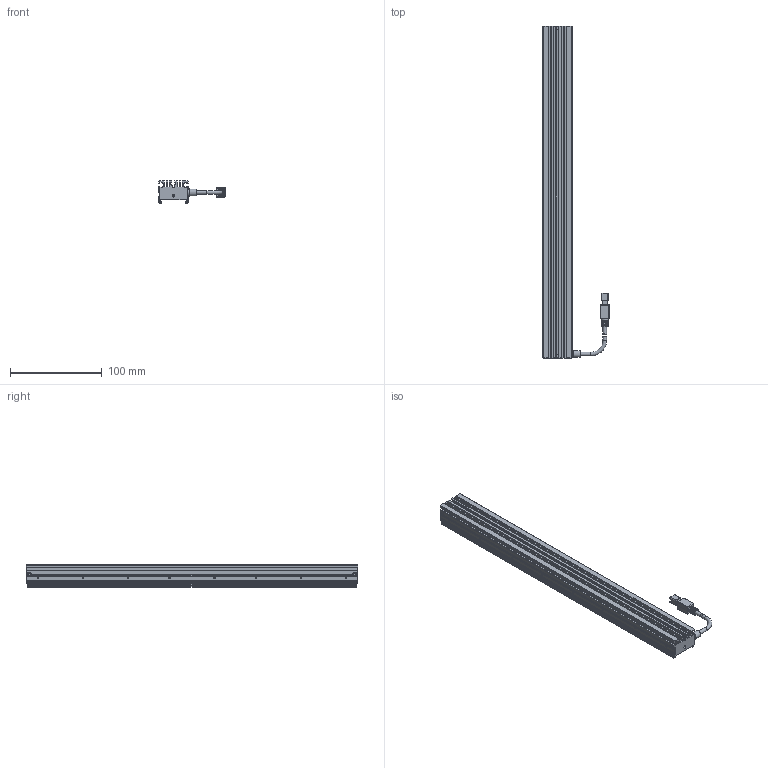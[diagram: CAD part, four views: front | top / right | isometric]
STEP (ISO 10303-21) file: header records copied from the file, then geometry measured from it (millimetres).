
FILE_DESCRIPTION (( 'STEP AP203' ), '1' );
FILE_NAME ('OPT-ILI36232-IR-V1.0尨砩芞.STEP', '2025-01-18T08:30:27', ( '' ), ( '' ), 'SwSTEP 2.0', 'SolidWorks 2016', '' );
FILE_SCHEMA (( 'CONFIG_CONTROL_DESIGN' ));
Length unit declared in the file: millimetre
Products named in the file (1): OPT-ILI36232-IR-V1.0尨砩芞
Bounding box: 72.6 x 362 x 24 mm (x, y, z)
Volume: 198746.9 mm3; surface area: 89028.2 mm2
Topology: 5 solids, 13 shells, 608 faces, 1565 edges, 1003 vertices
Faces by surface type: plane 408, cylinder 142, cone 28, bspline 20, torus 10
Full cylindrical faces by diameter (mm): 1.1 x2, 1.4 x2, 1.6 x23, 2 x7, 2.4 x7, 2.5 x2, 3 x2, 3.5 x1, 4.1 x3, 7.5 x2, 8 x1
Entity records: 18491 total; most frequent: CARTESIAN_POINT 4227, ORIENTED_EDGE 2910, DIRECTION 2834, EDGE_CURVE 1455, LINE 986, VECTOR 986, VERTEX_POINT 975, AXIS2_PLACEMENT_3D 924
